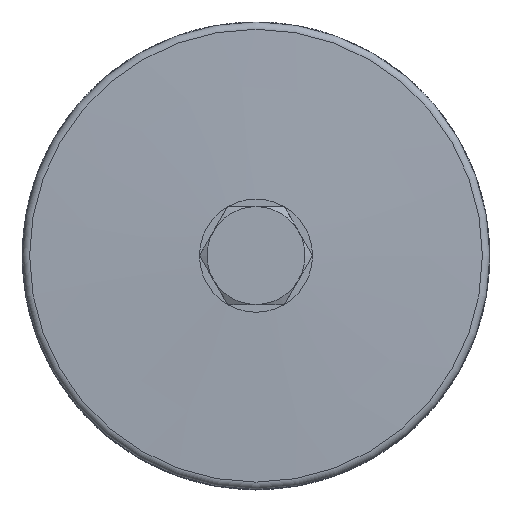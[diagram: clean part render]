
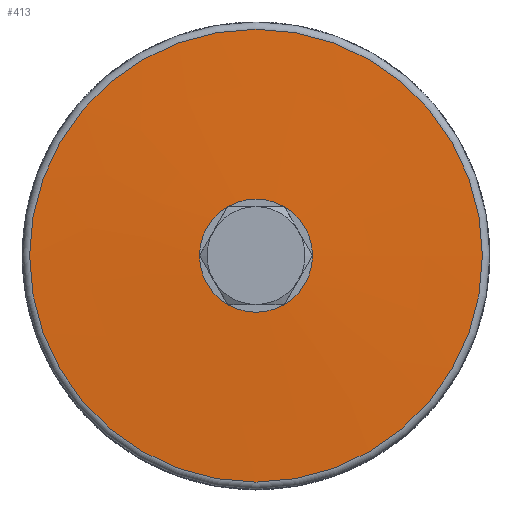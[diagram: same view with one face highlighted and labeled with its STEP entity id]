
A CAD part, top view. The second image highlights one B-rep face of the part: STEP entity #413.
In plain terms, the highlighted conical face has half-angle 88 degrees and reference radius 30.035 mm.
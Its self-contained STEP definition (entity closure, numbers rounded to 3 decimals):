
#413 = ADVANCED_FACE( '', ( #1126, #1127 ), #1128, .T. );
#1126 = FACE_BOUND( '', #1866, .T. );
#1127 = FACE_OUTER_BOUND( '', #1867, .T. );
#1128 = CONICAL_SURFACE( '', #1868, 30.035, 1.536 );
#1866 = EDGE_LOOP( '', ( #4914 ) );
#1867 = EDGE_LOOP( '', ( #4915 ) );
#1868 = AXIS2_PLACEMENT_3D( '', #4916, #4917, #4918 );
#4914 = ORIENTED_EDGE( '', *, *, #5050, .F. );
#4915 = ORIENTED_EDGE( '', *, *, #6058, .T. );
#4916 = CARTESIAN_POINT( '', ( 0., 0., 49.213 ) );
#4917 = DIRECTION( '', ( 0., 0., -1. ) );
#4918 = DIRECTION( '', ( -1., 0., 0. ) );
#5050 = EDGE_CURVE( '', #6077, #6077, #6078, .T. );
#6058 = EDGE_CURVE( '', #7767, #7767, #7768, .T. );
#6077 = VERTEX_POINT( '', #7793 );
#6078 = CIRCLE( '', #7794, 7.5 );
#7767 = VERTEX_POINT( '', #11290 );
#7768 = CIRCLE( '', #11291, 30.035 );
#7793 = CARTESIAN_POINT( '', ( 7.5, 0., 50. ) );
#7794 = AXIS2_PLACEMENT_3D( '', #11355, #11356, #11357 );
#11290 = CARTESIAN_POINT( '', ( 30.035, 0., 49.213 ) );
#11291 = AXIS2_PLACEMENT_3D( '', #13215, #13216, #13217 );
#11355 = CARTESIAN_POINT( '', ( 0., 0., 50. ) );
#11356 = DIRECTION( '', ( 0., 0., 1. ) );
#11357 = DIRECTION( '', ( 1., 0., 0. ) );
#13215 = CARTESIAN_POINT( '', ( 0., 0., 49.213 ) );
#13216 = DIRECTION( '', ( 0., 0., 1. ) );
#13217 = DIRECTION( '', ( 1., 0., 0. ) );
